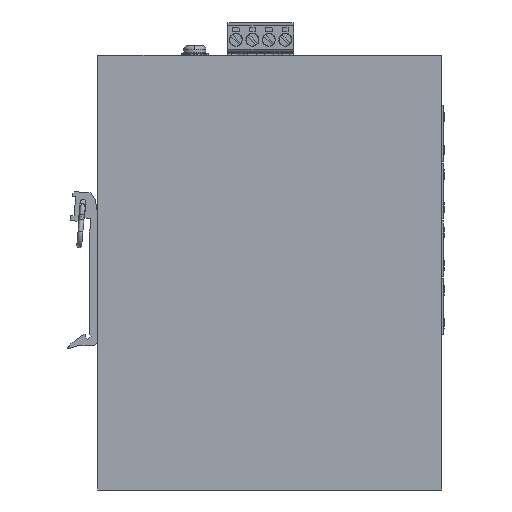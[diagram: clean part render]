
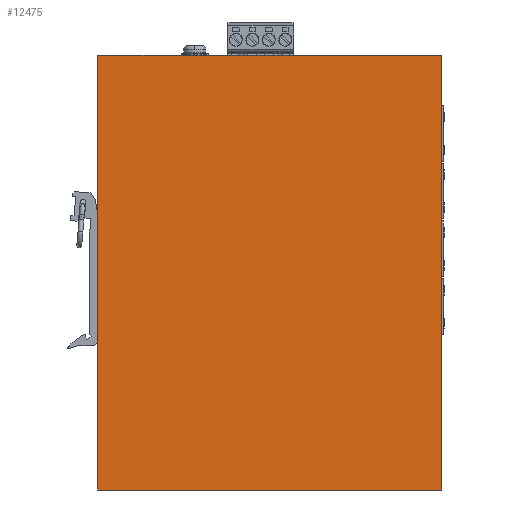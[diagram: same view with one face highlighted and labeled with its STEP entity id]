
A CAD part, left-side view. The second image highlights one B-rep face of the part: STEP entity #12475.
In plain terms, the highlighted planar face has unit normal (-1, 0, 0).
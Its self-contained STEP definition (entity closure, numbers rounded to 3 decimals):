
#2120=CARTESIAN_POINT('',(-0.,106.,134.));
#2121=VERTEX_POINT('',#2120);
#2128=CARTESIAN_POINT('',(0.,0.,134.));
#2129=VERTEX_POINT('',#2128);
#2130=CARTESIAN_POINT('',(-0.,106.,134.));
#2131=DIRECTION('',(0.,-1.,-0.));
#2132=VECTOR('',#2131,106.);
#2133=LINE('',#2130,#2132);
#2134=EDGE_CURVE('',#2121,#2129,#2133,.T.);
#6562=CARTESIAN_POINT('',(0.,106.,0.));
#6563=VERTEX_POINT('',#6562);
#6570=CARTESIAN_POINT('',(0.,106.,0.));
#6571=DIRECTION('',(-0.,-0.,1.));
#6572=VECTOR('',#6571,134.);
#6573=LINE('',#6570,#6572);
#6574=EDGE_CURVE('',#6563,#2121,#6573,.T.);
#8771=CARTESIAN_POINT('',(0.,0.,0.));
#8772=VERTEX_POINT('',#8771);
#8773=CARTESIAN_POINT('',(0.,106.,-0.));
#8774=DIRECTION('',(0.,-1.,-0.));
#8775=VECTOR('',#8774,106.);
#8776=LINE('',#8773,#8775);
#8777=EDGE_CURVE('',#6563,#8772,#8776,.T.);
#12459=CARTESIAN_POINT('',(0.,106.002,0.));
#12460=DIRECTION('',(1.,0.,0.));
#12461=DIRECTION('',(0.,-1.,-0.));
#12462=AXIS2_PLACEMENT_3D('',#12459,#12460,#12461);
#12463=PLANE('',#12462);
#12464=ORIENTED_EDGE('',*,*,#2134,.F.);
#12465=ORIENTED_EDGE('',*,*,#6574,.F.);
#12466=ORIENTED_EDGE('',*,*,#8777,.T.);
#12467=CARTESIAN_POINT('',(0.,0.,0.));
#12468=DIRECTION('',(-0.,-0.,1.));
#12469=VECTOR('',#12468,134.);
#12470=LINE('',#12467,#12469);
#12471=EDGE_CURVE('',#8772,#2129,#12470,.T.);
#12472=ORIENTED_EDGE('',*,*,#12471,.T.);
#12473=EDGE_LOOP('',(#12464,#12465,#12466,#12472));
#12474=FACE_BOUND('',#12473,.T.);
#12475=ADVANCED_FACE('',(#12474),#12463,.F.);
